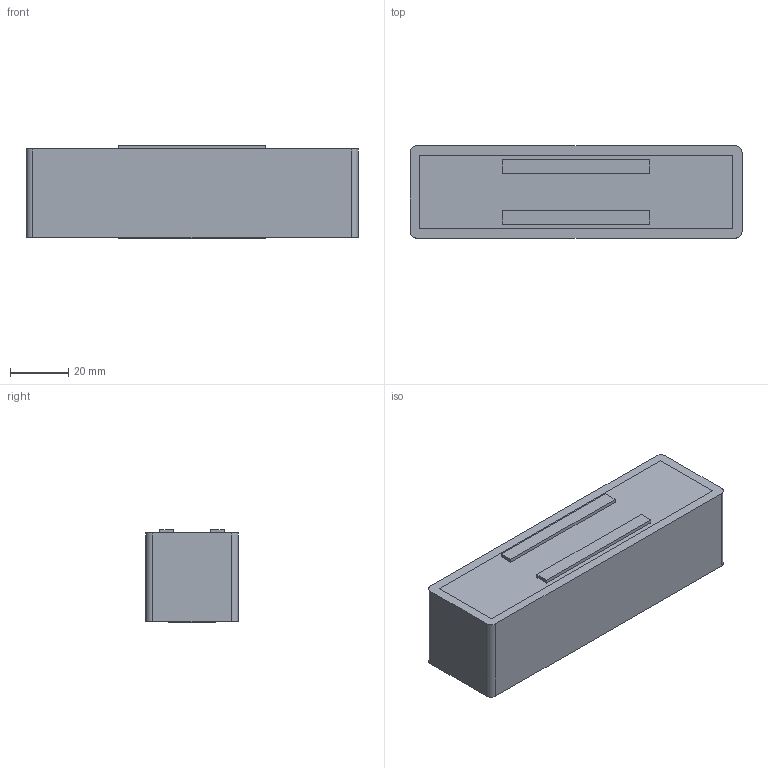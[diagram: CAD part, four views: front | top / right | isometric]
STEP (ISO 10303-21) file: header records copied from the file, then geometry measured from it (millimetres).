
FILE_DESCRIPTION (( 'STEP AP203' ), '1' );
FILE_NAME ('AC2103.STEP', '2018-07-26T17:29:44', ( '' ), ( '' ), 'SwSTEP 2.0', 'SolidWorks 2015', '' );
FILE_SCHEMA (( 'CONFIG_CONTROL_DESIGN' ));
Length unit declared in the file: inch
Products named in the file (1): AC2103
Bounding box: 114.3 x 31.75 x 32 mm (x, y, z)
Volume: 99369.7 mm3; surface area: 43986.2 mm2
Topology: 5 solids, 5 shells, 538 faces, 1407 edges, 938 vertices
Faces by surface type: plane 365, bspline 161, cylinder 12
Entity records: 26180 total; most frequent: CARTESIAN_POINT 13917, ORIENTED_EDGE 2814, DIRECTION 1865, EDGE_CURVE 1407, LINE 1061, VECTOR 1061, VERTEX_POINT 938, EDGE_LOOP 601
